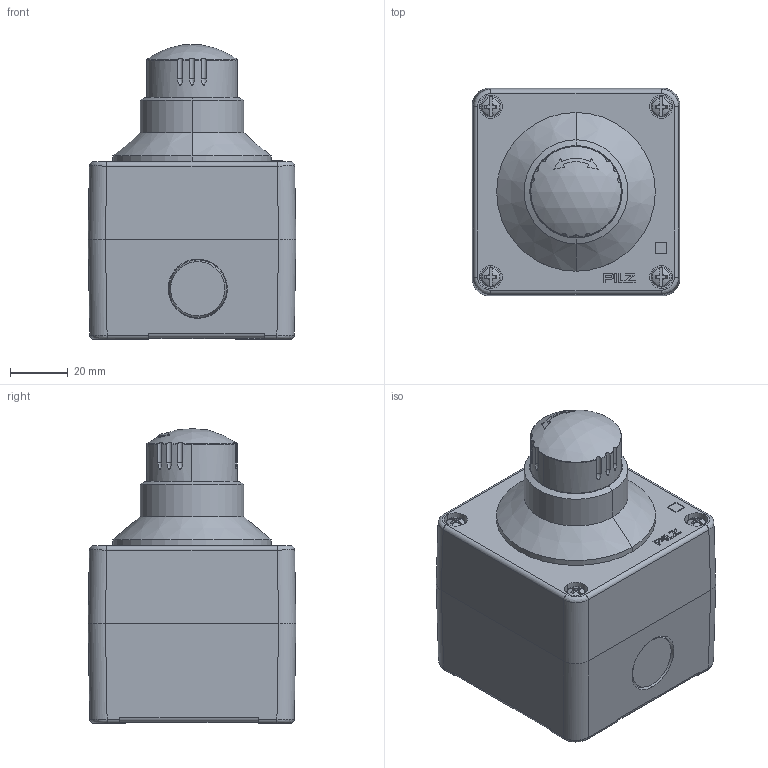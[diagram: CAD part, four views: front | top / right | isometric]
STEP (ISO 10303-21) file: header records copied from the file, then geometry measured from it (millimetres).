
FILE_DESCRIPTION((''),'2;1');
FILE_NAME('2031850_ASM','2021-10-28T08:05:18',('t.hampe'),(''),'CREO PARAMETRIC BY PTC INC, 2019292','CREO PARAMETRIC BY PTC INC, 2019292','');
FILE_SCHEMA(('AUTOMOTIVE_DESIGN { 1 0 10303 214 1 1 1 1 }'));
Products named in the file (3): 2031848; 2031849; 2031850_ASM
Assembly tree (2 placements, depth 2):
  2031850_ASM
    2031848
    2031849
Bounding box: 72 x 72 x 102.05 mm (x, y, z)
Volume: 120268.3 mm3; surface area: 92626.5 mm2
Topology: 2 solids, 21 shells, 2078 faces, 5799 edges, 3870 vertices
Faces by surface type: plane 1192, cylinder 569, torus 109, cone 104, bspline 55, extrusion 37, sphere 12
Entity records: 94611 total; most frequent: CARTESIAN_POINT 23626, ORIENTED_EDGE 11580, DIRECTION 10389, PRESENTATION_STYLE_ASSIGNMENT 5802, STYLED_ITEM 5798, CURVE_STYLE 5796, EDGE_CURVE 5790, VERTEX_POINT 3868
